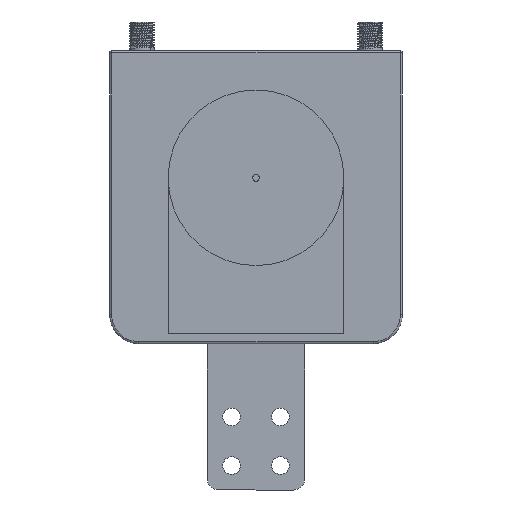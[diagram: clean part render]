
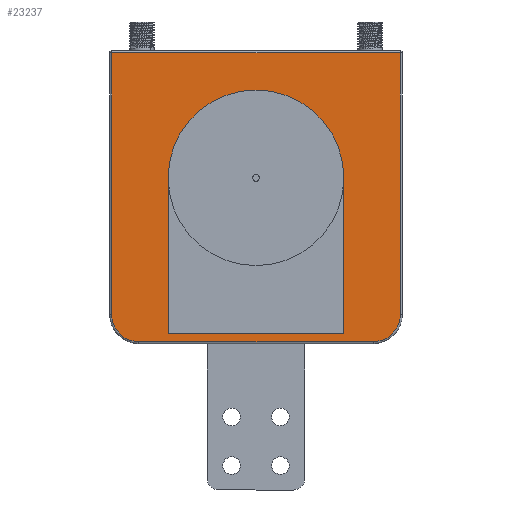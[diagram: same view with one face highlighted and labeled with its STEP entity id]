
A CAD part, front view. The second image highlights one B-rep face of the part: STEP entity #23237.
In plain terms, the highlighted planar face has unit normal (0, -1, 0).
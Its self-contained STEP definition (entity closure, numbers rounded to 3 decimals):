
#136 = LINE ( 'NONE', #19469, #30160 ) ;
#505 = VERTEX_POINT ( 'NONE', #13897 ) ;
#630 = FACE_OUTER_BOUND ( 'NONE', #25208, .T. ) ;
#1166 = FACE_BOUND ( 'NONE', #11857, .T. ) ;
#1771 = ORIENTED_EDGE ( 'NONE', *, *, #34948, .T. ) ;
#1795 = CIRCLE ( 'NONE', #24886, 45. ) ;
#2090 = CARTESIAN_POINT ( 'NONE',  ( 45., 0., 10. ) ) ;
#2646 = VERTEX_POINT ( 'NONE', #25033 ) ;
#3111 = DIRECTION ( 'NONE',  ( 0., 0., -1. ) ) ;
#3502 = DIRECTION ( 'NONE',  ( 0., 1., 0. ) ) ;
#3586 = CARTESIAN_POINT ( 'NONE',  ( 0., 0., -74. ) ) ;
#4377 = CARTESIAN_POINT ( 'NONE',  ( 74., 0., 0. ) ) ;
#4554 = ORIENTED_EDGE ( 'NONE', *, *, #24551, .F. ) ;
#5385 = ORIENTED_EDGE ( 'NONE', *, *, #30425, .F. ) ;
#5447 = CARTESIAN_POINT ( 'NONE',  ( 45., 0., 10. ) ) ;
#6008 = CIRCLE ( 'NONE', #11786, 45. ) ;
#6376 = AXIS2_PLACEMENT_3D ( 'NONE', #11655, #3502, #28091 ) ;
#6523 = EDGE_CURVE ( 'NONE', #2646, #10586, #17343, .T. ) ;
#7355 = CARTESIAN_POINT ( 'NONE',  ( -60., 0., -60. ) ) ;
#7735 = DIRECTION ( 'NONE',  ( 1., 0., 0. ) ) ;
#8017 = ORIENTED_EDGE ( 'NONE', *, *, #29164, .T. ) ;
#8375 = VERTEX_POINT ( 'NONE', #23617 ) ;
#10103 = VERTEX_POINT ( 'NONE', #5447 ) ;
#10468 = VERTEX_POINT ( 'NONE', #33224 ) ;
#10586 = VERTEX_POINT ( 'NONE', #10659 ) ;
#10659 = CARTESIAN_POINT ( 'NONE',  ( 60., 0., -74. ) ) ;
#10801 = ORIENTED_EDGE ( 'NONE', *, *, #27659, .F. ) ;
#11263 = DIRECTION ( 'NONE',  ( 0., 1., 0. ) ) ;
#11595 = ORIENTED_EDGE ( 'NONE', *, *, #23090, .F. ) ;
#11655 = CARTESIAN_POINT ( 'NONE',  ( 0., 0., 0. ) ) ;
#11786 = AXIS2_PLACEMENT_3D ( 'NONE', #13496, #35504, #16550 ) ;
#11857 = EDGE_LOOP ( 'NONE', ( #11595, #5385, #4554, #10801, #21698 ) ) ;
#11859 = VERTEX_POINT ( 'NONE', #19141 ) ;
#12454 = VERTEX_POINT ( 'NONE', #19985 ) ;
#13496 = CARTESIAN_POINT ( 'NONE',  ( 0., 0., 10. ) ) ;
#13773 = LINE ( 'NONE', #19368, #26851 ) ;
#13897 = CARTESIAN_POINT ( 'NONE',  ( 74., 0., -60. ) ) ;
#14999 = VECTOR ( 'NONE', #15656, 1000. ) ;
#15016 = CARTESIAN_POINT ( 'NONE',  ( -74., 0., 0. ) ) ;
#15410 = DIRECTION ( 'NONE',  ( 0., 0., 1. ) ) ;
#15435 = VECTOR ( 'NONE', #15410, 1000. ) ;
#15651 = CIRCLE ( 'NONE', #35271, 14. ) ;
#15656 = DIRECTION ( 'NONE',  ( 0., 0., -1. ) ) ;
#16158 = AXIS2_PLACEMENT_3D ( 'NONE', #7355, #29575, #29401 ) ;
#16550 = DIRECTION ( 'NONE',  ( 0., 0., -1. ) ) ;
#17119 = VECTOR ( 'NONE', #26171, 1000. ) ;
#17343 = LINE ( 'NONE', #3586, #17119 ) ;
#17797 = PLANE ( 'NONE',  #6376 ) ;
#18990 = VECTOR ( 'NONE', #26025, 1000. ) ;
#19141 = CARTESIAN_POINT ( 'NONE',  ( 74., 0., 74. ) ) ;
#19368 = CARTESIAN_POINT ( 'NONE',  ( 0., 0., 74. ) ) ;
#19469 = CARTESIAN_POINT ( 'NONE',  ( 45., 0., -70. ) ) ;
#19985 = CARTESIAN_POINT ( 'NONE',  ( 45., 0., -70. ) ) ;
#20631 = CARTESIAN_POINT ( 'NONE',  ( 60., 0., -60. ) ) ;
#21698 = ORIENTED_EDGE ( 'NONE', *, *, #31794, .F. ) ;
#22258 = DIRECTION ( 'NONE',  ( -1., 0., 0. ) ) ;
#22804 = CARTESIAN_POINT ( 'NONE',  ( 0., 0., 10. ) ) ;
#23090 = EDGE_CURVE ( 'NONE', #33142, #24823, #32453, .T. ) ;
#23237 = ADVANCED_FACE ( 'NONE', ( #1166, #630 ), #17797, .F. ) ;
#23617 = CARTESIAN_POINT ( 'NONE',  ( -74., 0., -60. ) ) ;
#23779 = LINE ( 'NONE', #2090, #29877 ) ;
#23788 = CARTESIAN_POINT ( 'NONE',  ( -45., 0., -70. ) ) ;
#24314 = DIRECTION ( 'NONE',  ( 0., 0., 1. ) ) ;
#24551 = EDGE_CURVE ( 'NONE', #10103, #10468, #6008, .T. ) ;
#24766 = ORIENTED_EDGE ( 'NONE', *, *, #6523, .T. ) ;
#24823 = VERTEX_POINT ( 'NONE', #29720 ) ;
#24886 = AXIS2_PLACEMENT_3D ( 'NONE', #22804, #11263, #3111 ) ;
#25033 = CARTESIAN_POINT ( 'NONE',  ( -60., 0., -74. ) ) ;
#25208 = EDGE_LOOP ( 'NONE', ( #28923, #30144, #8017, #1771, #24766, #32209 ) ) ;
#25358 = EDGE_CURVE ( 'NONE', #11859, #31663, #13773, .T. ) ;
#26025 = DIRECTION ( 'NONE',  ( 0., 0., -1. ) ) ;
#26171 = DIRECTION ( 'NONE',  ( 1., 0., 0. ) ) ;
#26217 = DIRECTION ( 'NONE',  ( 0., 0., 1. ) ) ;
#26851 = VECTOR ( 'NONE', #22258, 1000. ) ;
#27113 = CIRCLE ( 'NONE', #16158, 14. ) ;
#27659 = EDGE_CURVE ( 'NONE', #12454, #10103, #23779, .T. ) ;
#28091 = DIRECTION ( 'NONE',  ( 0., 0., 1. ) ) ;
#28361 = EDGE_CURVE ( 'NONE', #505, #11859, #34198, .T. ) ;
#28923 = ORIENTED_EDGE ( 'NONE', *, *, #28361, .T. ) ;
#29109 = LINE ( 'NONE', #15016, #18990 ) ;
#29164 = EDGE_CURVE ( 'NONE', #31663, #8375, #29109, .T. ) ;
#29401 = DIRECTION ( 'NONE',  ( 0., 0., 1. ) ) ;
#29575 = DIRECTION ( 'NONE',  ( 0., -1., 0. ) ) ;
#29720 = CARTESIAN_POINT ( 'NONE',  ( -45., 0., -70. ) ) ;
#29877 = VECTOR ( 'NONE', #24314, 1000. ) ;
#30144 = ORIENTED_EDGE ( 'NONE', *, *, #25358, .T. ) ;
#30160 = VECTOR ( 'NONE', #7735, 1000. ) ;
#30425 = EDGE_CURVE ( 'NONE', #10468, #33142, #1795, .T. ) ;
#30468 = EDGE_CURVE ( 'NONE', #10586, #505, #15651, .T. ) ;
#31533 = CARTESIAN_POINT ( 'NONE',  ( -45., 0., 10. ) ) ;
#31663 = VERTEX_POINT ( 'NONE', #32310 ) ;
#31794 = EDGE_CURVE ( 'NONE', #24823, #12454, #136, .T. ) ;
#32209 = ORIENTED_EDGE ( 'NONE', *, *, #30468, .T. ) ;
#32310 = CARTESIAN_POINT ( 'NONE',  ( -74., 0., 74. ) ) ;
#32453 = LINE ( 'NONE', #23788, #14999 ) ;
#33142 = VERTEX_POINT ( 'NONE', #31533 ) ;
#33224 = CARTESIAN_POINT ( 'NONE',  ( 0., 0., -35. ) ) ;
#34198 = LINE ( 'NONE', #4377, #15435 ) ;
#34534 = DIRECTION ( 'NONE',  ( 0., -1., 0. ) ) ;
#34948 = EDGE_CURVE ( 'NONE', #8375, #2646, #27113, .T. ) ;
#35271 = AXIS2_PLACEMENT_3D ( 'NONE', #20631, #34534, #26217 ) ;
#35504 = DIRECTION ( 'NONE',  ( 0., 1., 0. ) ) ;
